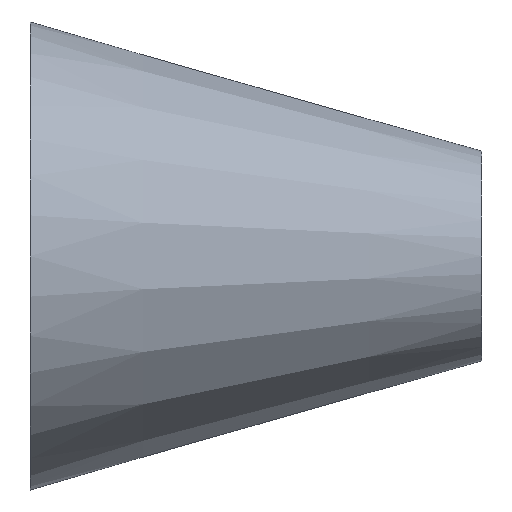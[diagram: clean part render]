
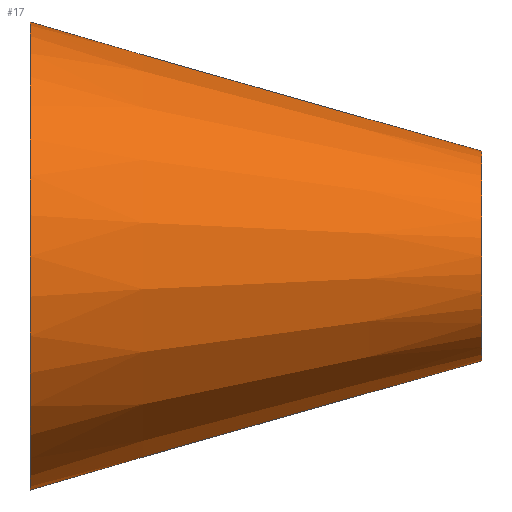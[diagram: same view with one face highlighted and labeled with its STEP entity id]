
A CAD part, front view. The second image highlights one B-rep face of the part: STEP entity #17.
In plain terms, the highlighted conical face has half-angle 15.945 degrees and reference radius 14.5 mm.
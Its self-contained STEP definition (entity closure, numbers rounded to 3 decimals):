
#17 = ADVANCED_FACE('',(#18),#31,.T.);
#18 = FACE_BOUND('',#19,.T.);
#19 = EDGE_LOOP('',(#20,#54,#74,#101));
#20 = ORIENTED_EDGE('',*,*,#21,.T.);
#21 = EDGE_CURVE('',#22,#22,#24,.T.);
#22 = VERTEX_POINT('',#23);
#23 = CARTESIAN_POINT('',(0.,14.5,0.));
#24 = SURFACE_CURVE('',#25,(#30,#42),.PCURVE_S1.);
#25 = CIRCLE('',#26,14.5);
#26 = AXIS2_PLACEMENT_3D('',#27,#28,#29);
#27 = CARTESIAN_POINT('',(0.,0.,0.));
#28 = DIRECTION('',(1.,0.,0.));
#29 = DIRECTION('',(0.,1.,0.));
#30 = PCURVE('',#31,#36);
#31 = CONICAL_SURFACE('',#32,14.5,0.278);
#32 = AXIS2_PLACEMENT_3D('',#33,#34,#35);
#33 = CARTESIAN_POINT('',(0.,0.,0.));
#34 = DIRECTION('',(-1.,-0.,-0.));
#35 = DIRECTION('',(0.,1.,0.));
#36 = DEFINITIONAL_REPRESENTATION('',(#37),#41);
#37 = LINE('',#38,#39);
#38 = CARTESIAN_POINT('',(-0.,-0.));
#39 = VECTOR('',#40,1.);
#40 = DIRECTION('',(-1.,-0.));
#41 = ( GEOMETRIC_REPRESENTATION_CONTEXT(2) 
PARAMETRIC_REPRESENTATION_CONTEXT() REPRESENTATION_CONTEXT('2D SPACE',''
  ) );
#42 = PCURVE('',#43,#48);
#43 = PLANE('',#44);
#44 = AXIS2_PLACEMENT_3D('',#45,#46,#47);
#45 = CARTESIAN_POINT('',(0.,0.,0.));
#46 = DIRECTION('',(1.,0.,0.));
#47 = DIRECTION('',(0.,1.,0.));
#48 = DEFINITIONAL_REPRESENTATION('',(#49),#53);
#49 = CIRCLE('',#50,14.5);
#50 = AXIS2_PLACEMENT_2D('',#51,#52);
#51 = CARTESIAN_POINT('',(0.,0.));
#52 = DIRECTION('',(1.,0.));
#53 = ( GEOMETRIC_REPRESENTATION_CONTEXT(2) 
PARAMETRIC_REPRESENTATION_CONTEXT() REPRESENTATION_CONTEXT('2D SPACE',''
  ) );
#54 = ORIENTED_EDGE('',*,*,#55,.T.);
#55 = EDGE_CURVE('',#22,#56,#58,.T.);
#56 = VERTEX_POINT('',#57);
#57 = CARTESIAN_POINT('',(28.,6.5,0.));
#58 = SEAM_CURVE('',#59,(#62,#68),.PCURVE_S1.);
#59 = B_SPLINE_CURVE_WITH_KNOTS('',1,(#60,#61),.UNSPECIFIED.,.F.,.F.,(2,
    2),(0.,1.),.PIECEWISE_BEZIER_KNOTS.);
#60 = CARTESIAN_POINT('',(0.,14.5,0.));
#61 = CARTESIAN_POINT('',(28.,6.5,0.));
#62 = PCURVE('',#31,#63);
#63 = DEFINITIONAL_REPRESENTATION('',(#64),#67);
#64 = B_SPLINE_CURVE_WITH_KNOTS('',1,(#65,#66),.UNSPECIFIED.,.F.,.F.,(2,
    2),(0.,1.),.PIECEWISE_BEZIER_KNOTS.);
#65 = CARTESIAN_POINT('',(-6.283,0.));
#66 = CARTESIAN_POINT('',(-6.283,-28.));
#67 = ( GEOMETRIC_REPRESENTATION_CONTEXT(2) 
PARAMETRIC_REPRESENTATION_CONTEXT() REPRESENTATION_CONTEXT('2D SPACE',''
  ) );
#68 = PCURVE('',#31,#69);
#69 = DEFINITIONAL_REPRESENTATION('',(#70),#73);
#70 = B_SPLINE_CURVE_WITH_KNOTS('',1,(#71,#72),.UNSPECIFIED.,.F.,.F.,(2,
    2),(0.,1.),.PIECEWISE_BEZIER_KNOTS.);
#71 = CARTESIAN_POINT('',(0.,0.));
#72 = CARTESIAN_POINT('',(0.,-28.));
#73 = ( GEOMETRIC_REPRESENTATION_CONTEXT(2) 
PARAMETRIC_REPRESENTATION_CONTEXT() REPRESENTATION_CONTEXT('2D SPACE',''
  ) );
#74 = ORIENTED_EDGE('',*,*,#75,.F.);
#75 = EDGE_CURVE('',#56,#56,#76,.T.);
#76 = SURFACE_CURVE('',#77,(#82,#89),.PCURVE_S1.);
#77 = CIRCLE('',#78,6.5);
#78 = AXIS2_PLACEMENT_3D('',#79,#80,#81);
#79 = CARTESIAN_POINT('',(28.,0.,0.));
#80 = DIRECTION('',(1.,0.,0.));
#81 = DIRECTION('',(0.,1.,0.));
#82 = PCURVE('',#31,#83);
#83 = DEFINITIONAL_REPRESENTATION('',(#84),#88);
#84 = LINE('',#85,#86);
#85 = CARTESIAN_POINT('',(-0.,-28.));
#86 = VECTOR('',#87,1.);
#87 = DIRECTION('',(-1.,-0.));
#88 = ( GEOMETRIC_REPRESENTATION_CONTEXT(2) 
PARAMETRIC_REPRESENTATION_CONTEXT() REPRESENTATION_CONTEXT('2D SPACE',''
  ) );
#89 = PCURVE('',#90,#95);
#90 = PLANE('',#91);
#91 = AXIS2_PLACEMENT_3D('',#92,#93,#94);
#92 = CARTESIAN_POINT('',(28.,0.,0.));
#93 = DIRECTION('',(1.,0.,0.));
#94 = DIRECTION('',(0.,1.,0.));
#95 = DEFINITIONAL_REPRESENTATION('',(#96),#100);
#96 = CIRCLE('',#97,6.5);
#97 = AXIS2_PLACEMENT_2D('',#98,#99);
#98 = CARTESIAN_POINT('',(0.,0.));
#99 = DIRECTION('',(1.,0.));
#100 = ( GEOMETRIC_REPRESENTATION_CONTEXT(2) 
PARAMETRIC_REPRESENTATION_CONTEXT() REPRESENTATION_CONTEXT('2D SPACE',''
  ) );
#101 = ORIENTED_EDGE('',*,*,#55,.F.);
